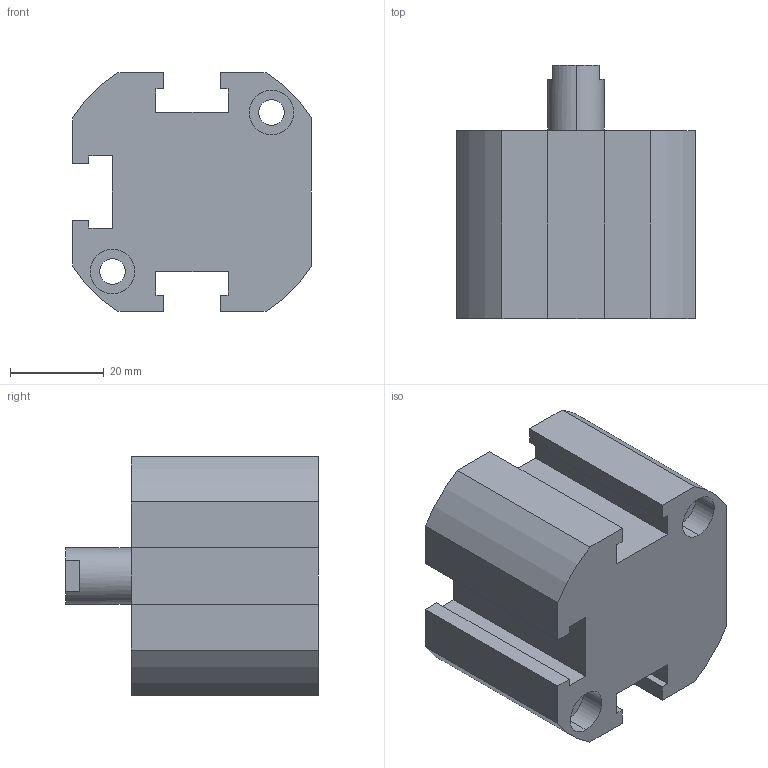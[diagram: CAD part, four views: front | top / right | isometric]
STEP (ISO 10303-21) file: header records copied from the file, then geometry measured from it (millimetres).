
FILE_DESCRIPTION (( 'STEP AP203' ), '1' );
FILE_NAME ('XC#0-32D-10.STEP', '2016-05-23T07:00:10', ( '' ), ( '' ), 'SwSTEP 2.0', 'SolidWorks 2014', '' );
FILE_SCHEMA (( 'CONFIG_CONTROL_DESIGN' ));
Length unit declared in the file: millimetre
Products named in the file (1): XC#0-32D-10
Bounding box: 51 x 54 x 51 mm (x, y, z)
Volume: 80309.5 mm3; surface area: 17252.1 mm2
Topology: 1 solids, 1 shells, 91 faces, 231 edges, 150 vertices
Faces by surface type: plane 45, cylinder 40, cone 6
Entity records: 2822 total; most frequent: DIRECTION 499, CARTESIAN_POINT 469, ORIENTED_EDGE 454, EDGE_CURVE 227, AXIS2_PLACEMENT_3D 180, VERTEX_POINT 150, LINE 139, VECTOR 139
